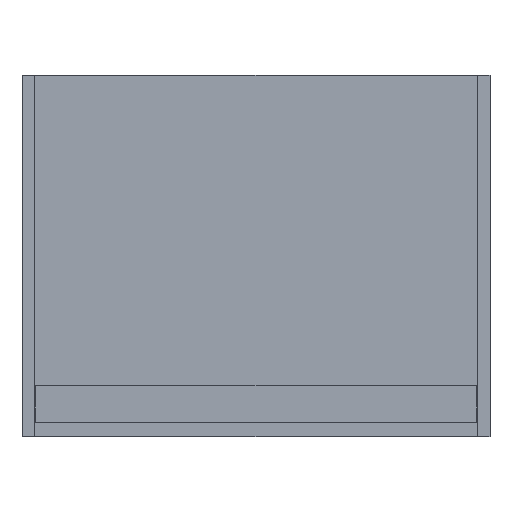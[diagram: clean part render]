
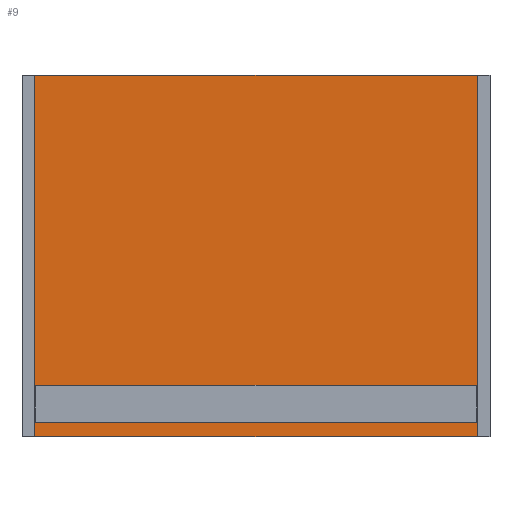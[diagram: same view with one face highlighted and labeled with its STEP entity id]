
A CAD part, front view. The second image highlights one B-rep face of the part: STEP entity #9.
In plain terms, the highlighted planar face has unit normal (0, -1, 0).
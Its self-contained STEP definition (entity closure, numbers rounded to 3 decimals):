
#9 = ADVANCED_FACE ( 'NONE', ( #2602 ), #806, .F. ) ;
#37 = ORIENTED_EDGE ( 'NONE', *, *, #2203, .T. ) ;
#115 = ORIENTED_EDGE ( 'NONE', *, *, #1424, .T. ) ;
#118 = ORIENTED_EDGE ( 'NONE', *, *, #1418, .F. ) ;
#239 = EDGE_LOOP ( 'NONE', ( #115, #118, #406, #37 ) ) ;
#406 = ORIENTED_EDGE ( 'NONE', *, *, #1430, .F. ) ;
#806 = PLANE ( 'NONE',  #1419 ) ;
#816 = DIRECTION ( 'NONE',  ( 0., 1., 0. ) ) ;
#866 = CARTESIAN_POINT ( 'NONE',  ( 321., -57.525, 500. ) ) ;
#1128 = DIRECTION ( 'NONE',  ( -1., 0., 0. ) ) ;
#1418 = EDGE_CURVE ( 'NONE', #1789, #1798, #2509, .T. ) ;
#1419 = AXIS2_PLACEMENT_3D ( 'NONE', #866, #816, #1128 ) ;
#1424 = EDGE_CURVE ( 'NONE', #1702, #1798, #2508, .T. ) ;
#1430 = EDGE_CURVE ( 'NONE', #1786, #1789, #2506, .T. ) ;
#1545 = CARTESIAN_POINT ( 'NONE',  ( 321., -57.525, 0. ) ) ;
#1560 = CARTESIAN_POINT ( 'NONE',  ( 321., -57.525, 500. ) ) ;
#1564 = CARTESIAN_POINT ( 'NONE',  ( -321., -57.525, 500. ) ) ;
#1601 = CARTESIAN_POINT ( 'NONE',  ( -321., -57.525, 0. ) ) ;
#1662 = DIRECTION ( 'NONE',  ( 1., 0., 0. ) ) ;
#1663 = CARTESIAN_POINT ( 'NONE',  ( 321., -57.525, 500. ) ) ;
#1670 = DIRECTION ( 'NONE',  ( 1., 0., 0. ) ) ;
#1671 = CARTESIAN_POINT ( 'NONE',  ( 321., -57.525, 0. ) ) ;
#1702 = VERTEX_POINT ( 'NONE', #1601 ) ;
#1721 = DIRECTION ( 'NONE',  ( 0., 0., -1. ) ) ;
#1722 = CARTESIAN_POINT ( 'NONE',  ( 321., -57.525, 500. ) ) ;
#1738 = DIRECTION ( 'NONE',  ( 0., 0., -1. ) ) ;
#1739 = CARTESIAN_POINT ( 'NONE',  ( -321., -57.525, 500. ) ) ;
#1786 = VERTEX_POINT ( 'NONE', #1564 ) ;
#1789 = VERTEX_POINT ( 'NONE', #1560 ) ;
#1798 = VERTEX_POINT ( 'NONE', #1545 ) ;
#2203 = EDGE_CURVE ( 'NONE', #1786, #1702, #3373, .T. ) ;
#2480 = VECTOR ( 'NONE', #1721, 1000. ) ;
#2505 = VECTOR ( 'NONE', #1662, 1000. ) ;
#2506 = LINE ( 'NONE', #1663, #2505 ) ;
#2507 = VECTOR ( 'NONE', #1670, 1000. ) ;
#2508 = LINE ( 'NONE', #1671, #2507 ) ;
#2509 = LINE ( 'NONE', #1722, #2480 ) ;
#2602 = FACE_OUTER_BOUND ( 'NONE', #239, .T. ) ;
#3368 = VECTOR ( 'NONE', #1738, 1000. ) ;
#3373 = LINE ( 'NONE', #1739, #3368 ) ;
